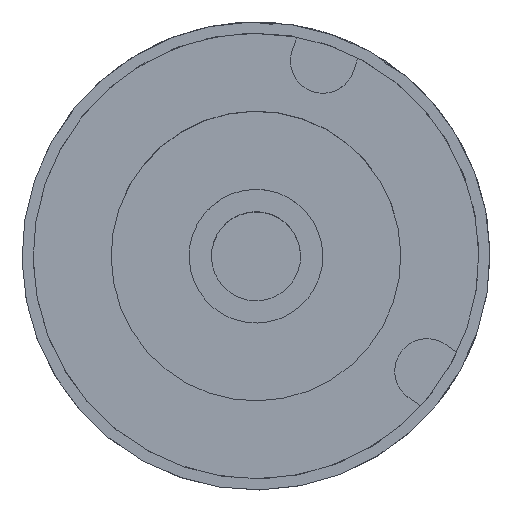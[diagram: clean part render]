
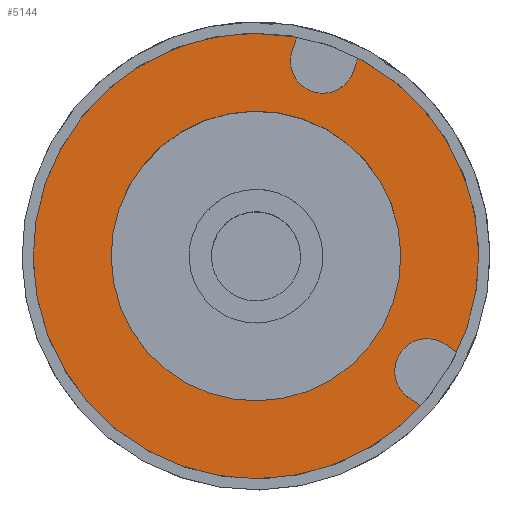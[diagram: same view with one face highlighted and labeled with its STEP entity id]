
A CAD part, top view. The second image highlights one B-rep face of the part: STEP entity #5144.
In plain terms, the highlighted planar face has unit normal (0, 0, 1) as drawn and (0, 0, -1) by its records, which use the part's own axes.
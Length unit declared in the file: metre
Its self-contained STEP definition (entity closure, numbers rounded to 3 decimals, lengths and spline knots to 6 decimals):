
#111 = DIRECTION ( 'NONE',  ( 0., 0., 1. ) ) ;
#138 = CARTESIAN_POINT ( 'NONE',  ( 0., 0., 0.002 ) ) ;
#140 = CIRCLE ( 'NONE', #3973, 0.02 ) ;
#210 = VERTEX_POINT ( 'NONE', #5191 ) ;
#245 = CARTESIAN_POINT ( 'NONE',  ( 0., 0., 0.002 ) ) ;
#402 = AXIS2_PLACEMENT_3D ( 'NONE', #1487, #4421, #1897 ) ;
#511 = CARTESIAN_POINT ( 'NONE',  ( -0.0029, 0.019789, 0.002 ) ) ;
#526 = FACE_BOUND ( 'NONE', #2187, .T. ) ;
#532 = LINE ( 'NONE', #4841, #3464 ) ;
#607 = CIRCLE ( 'NONE', #5315, 0.013 ) ;
#702 = CARTESIAN_POINT ( 'NONE',  ( -0.019865, -0.00232, 0.002 ) ) ;
#797 = LINE ( 'NONE', #2415, #1815 ) ;
#811 = AXIS2_PLACEMENT_3D ( 'NONE', #4167, #1646, #4587 ) ;
#940 = AXIS2_PLACEMENT_3D ( 'NONE', #1063, #2664, #3086 ) ;
#966 = CARTESIAN_POINT ( 'NONE',  ( -0.018364, -0.007923, 0.002 ) ) ;
#995 = CARTESIAN_POINT ( 'NONE',  ( -0.01862, -0.001987, 0.002 ) ) ;
#1044 = DIRECTION ( 'NONE',  ( -1., 0., 0. ) ) ;
#1063 = CARTESIAN_POINT ( 'NONE',  ( -0.01787, -0.004788, 0.002 ) ) ;
#1098 = CARTESIAN_POINT ( 'NONE',  ( 0., 0.0185, 0.002 ) ) ;
#1121 = CARTESIAN_POINT ( 'NONE',  ( -0.01862, -0.001987, 0.002 ) ) ;
#1152 = DIRECTION ( 'NONE',  ( 1., 0., 0. ) ) ;
#1161 = DIRECTION ( 'NONE',  ( 0., 0., -1. ) ) ;
#1171 = ORIENTED_EDGE ( 'NONE', *, *, #3237, .F. ) ;
#1189 = CARTESIAN_POINT ( 'NONE',  ( 0., 0., 0.002 ) ) ;
#1201 = CARTESIAN_POINT ( 'NONE',  ( 0., 0., 0.002 ) ) ;
#1310 = EDGE_CURVE ( 'NONE', #4358, #2455, #2537, .T. ) ;
#1338 = VERTEX_POINT ( 'NONE', #702 ) ;
#1355 = CARTESIAN_POINT ( 'NONE',  ( -0.0029, 0.0185, 0.002 ) ) ;
#1357 = CARTESIAN_POINT ( 'NONE',  ( 0.013, 0., 0.002 ) ) ;
#1382 = ORIENTED_EDGE ( 'NONE', *, *, #1908, .T. ) ;
#1487 = CARTESIAN_POINT ( 'NONE',  ( -0.02024, -0.020239, 0.002 ) ) ;
#1558 = CARTESIAN_POINT ( 'NONE',  ( 0.0029, 0.0185, 0.002 ) ) ;
#1596 = DIRECTION ( 'NONE',  ( -1., 0., 0. ) ) ;
#1646 = DIRECTION ( 'NONE',  ( 0., 0., 1. ) ) ;
#1686 = VERTEX_POINT ( 'NONE', #4411 ) ;
#1762 = AXIS2_PLACEMENT_3D ( 'NONE', #1098, #4435, #1152 ) ;
#1798 = VERTEX_POINT ( 'NONE', #2439 ) ;
#1815 = VECTOR ( 'NONE', #3188, 1. ) ;
#1897 = DIRECTION ( 'NONE',  ( 1., 0., 0. ) ) ;
#1908 = EDGE_CURVE ( 'NONE', #2129, #210, #4102, .T. ) ;
#1948 = DIRECTION ( 'NONE',  ( 0., -1., 0. ) ) ;
#2001 = ORIENTED_EDGE ( 'NONE', *, *, #2776, .F. ) ;
#2012 = ORIENTED_EDGE ( 'NONE', *, *, #5218, .F. ) ;
#2025 = EDGE_CURVE ( 'NONE', #2460, #3731, #2890, .T. ) ;
#2069 = AXIS2_PLACEMENT_3D ( 'NONE', #2624, #3542, #1044 ) ;
#2089 = AXIS2_PLACEMENT_3D ( 'NONE', #245, #111, #5168 ) ;
#2129 = VERTEX_POINT ( 'NONE', #4273 ) ;
#2177 = EDGE_CURVE ( 'NONE', #3789, #1798, #2294, .T. ) ;
#2187 = EDGE_LOOP ( 'NONE', ( #2001, #5020 ) ) ;
#2190 = VERTEX_POINT ( 'NONE', #995 ) ;
#2294 = CIRCLE ( 'NONE', #4187, 0.013 ) ;
#2415 = CARTESIAN_POINT ( 'NONE',  ( -0.0029, -0.000106, 0.002 ) ) ;
#2434 = AXIS2_PLACEMENT_3D ( 'NONE', #5376, #3681, #1596 ) ;
#2439 = CARTESIAN_POINT ( 'NONE',  ( -0.013, 0., 0.002 ) ) ;
#2450 = ORIENTED_EDGE ( 'NONE', *, *, #1310, .F. ) ;
#2455 = VERTEX_POINT ( 'NONE', #1355 ) ;
#2460 = VERTEX_POINT ( 'NONE', #511 ) ;
#2537 = CIRCLE ( 'NONE', #1762, 0.0029 ) ;
#2593 = ORIENTED_EDGE ( 'NONE', *, *, #3652, .F. ) ;
#2617 = EDGE_CURVE ( 'NONE', #1338, #2190, #2674, .T. ) ;
#2624 = CARTESIAN_POINT ( 'NONE',  ( 0., 0., 0.002 ) ) ;
#2627 = DIRECTION ( 'NONE',  ( -0.966, -0.259, 0. ) ) ;
#2664 = DIRECTION ( 'NONE',  ( 0., 0., 1. ) ) ;
#2674 = LINE ( 'NONE', #1121, #3062 ) ;
#2751 = CIRCLE ( 'NONE', #2434, 0.02 ) ;
#2776 = EDGE_CURVE ( 'NONE', #1798, #3789, #607, .T. ) ;
#2806 = EDGE_CURVE ( 'NONE', #1686, #3559, #2751, .T. ) ;
#2846 = EDGE_CURVE ( 'NONE', #210, #2190, #4274, .T. ) ;
#2890 = CIRCLE ( 'NONE', #2089, 0.02 ) ;
#3062 = VECTOR ( 'NONE', #4061, 1. ) ;
#3086 = DIRECTION ( 'NONE',  ( 1., 0., 0. ) ) ;
#3143 = ORIENTED_EDGE ( 'NONE', *, *, #4456, .F. ) ;
#3188 = DIRECTION ( 'NONE',  ( 0., 1., 0. ) ) ;
#3237 = EDGE_CURVE ( 'NONE', #3731, #1338, #4939, .T. ) ;
#3301 = DIRECTION ( 'NONE',  ( -1., 0., 0. ) ) ;
#3420 = ORIENTED_EDGE ( 'NONE', *, *, #2806, .F. ) ;
#3449 = DIRECTION ( 'NONE',  ( -1., 0., 0. ) ) ;
#3460 = CARTESIAN_POINT ( 'NONE',  ( -0.02, 0., 0.002 ) ) ;
#3464 = VECTOR ( 'NONE', #1948, 1. ) ;
#3492 = DIRECTION ( 'NONE',  ( 0., 0., -1. ) ) ;
#3537 = EDGE_LOOP ( 'NONE', ( #2450, #2593, #3420, #3143, #3976, #1382, #5212, #5084, #1171, #5240, #2012 ) ) ;
#3542 = DIRECTION ( 'NONE',  ( 0., 0., 1. ) ) ;
#3559 = VERTEX_POINT ( 'NONE', #5378 ) ;
#3652 = EDGE_CURVE ( 'NONE', #3559, #4358, #532, .T. ) ;
#3681 = DIRECTION ( 'NONE',  ( 0., 0., 1. ) ) ;
#3731 = VERTEX_POINT ( 'NONE', #3460 ) ;
#3789 = VERTEX_POINT ( 'NONE', #1357 ) ;
#3794 = FACE_OUTER_BOUND ( 'NONE', #3537, .T. ) ;
#3840 = EDGE_CURVE ( 'NONE', #2129, #4051, #5190, .T. ) ;
#3973 = AXIS2_PLACEMENT_3D ( 'NONE', #1201, #5426, #3301 ) ;
#3976 = ORIENTED_EDGE ( 'NONE', *, *, #3840, .F. ) ;
#3997 = PLANE ( 'NONE',  #402 ) ;
#4051 = VERTEX_POINT ( 'NONE', #966 ) ;
#4061 = DIRECTION ( 'NONE',  ( 0.966, 0.259, 0. ) ) ;
#4086 = VECTOR ( 'NONE', #2627, 1. ) ;
#4093 = DIRECTION ( 'NONE',  ( -1., 0., 0. ) ) ;
#4102 = CIRCLE ( 'NONE', #811, 0.0029 ) ;
#4167 = CARTESIAN_POINT ( 'NONE',  ( -0.01787, -0.004788, 0.002 ) ) ;
#4187 = AXIS2_PLACEMENT_3D ( 'NONE', #138, #3492, #3449 ) ;
#4273 = CARTESIAN_POINT ( 'NONE',  ( -0.017119, -0.007589, 0.002 ) ) ;
#4274 = CIRCLE ( 'NONE', #940, 0.0029 ) ;
#4358 = VERTEX_POINT ( 'NONE', #1558 ) ;
#4411 = CARTESIAN_POINT ( 'NONE',  ( 0.02, 0., 0.002 ) ) ;
#4421 = DIRECTION ( 'NONE',  ( 0., 0., 1. ) ) ;
#4435 = DIRECTION ( 'NONE',  ( 0., 0., -1. ) ) ;
#4456 = EDGE_CURVE ( 'NONE', #4051, #1686, #140, .T. ) ;
#4587 = DIRECTION ( 'NONE',  ( 1., 0., 0. ) ) ;
#4822 = CARTESIAN_POINT ( 'NONE',  ( -0.018364, -0.007923, 0.002 ) ) ;
#4841 = CARTESIAN_POINT ( 'NONE',  ( 0.0029, -0.000106, 0.002 ) ) ;
#4939 = CIRCLE ( 'NONE', #2069, 0.02 ) ;
#5020 = ORIENTED_EDGE ( 'NONE', *, *, #2177, .F. ) ;
#5084 = ORIENTED_EDGE ( 'NONE', *, *, #2617, .F. ) ;
#5144 = ADVANCED_FACE ( 'NONE', ( #526, #3794 ), #3997, .F. ) ;
#5168 = DIRECTION ( 'NONE',  ( -1., 0., 0. ) ) ;
#5190 = LINE ( 'NONE', #4822, #4086 ) ;
#5191 = CARTESIAN_POINT ( 'NONE',  ( -0.01497, -0.004788, 0.002 ) ) ;
#5212 = ORIENTED_EDGE ( 'NONE', *, *, #2846, .T. ) ;
#5218 = EDGE_CURVE ( 'NONE', #2455, #2460, #797, .T. ) ;
#5240 = ORIENTED_EDGE ( 'NONE', *, *, #2025, .F. ) ;
#5315 = AXIS2_PLACEMENT_3D ( 'NONE', #1189, #1161, #4093 ) ;
#5376 = CARTESIAN_POINT ( 'NONE',  ( 0., 0., 0.002 ) ) ;
#5378 = CARTESIAN_POINT ( 'NONE',  ( 0.0029, 0.019789, 0.002 ) ) ;
#5426 = DIRECTION ( 'NONE',  ( 0., 0., 1. ) ) ;
